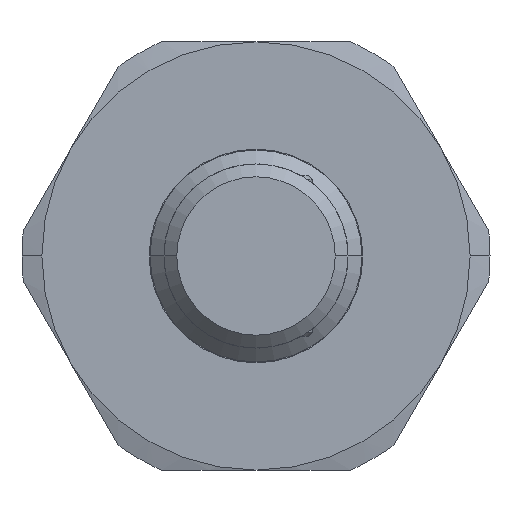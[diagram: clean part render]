
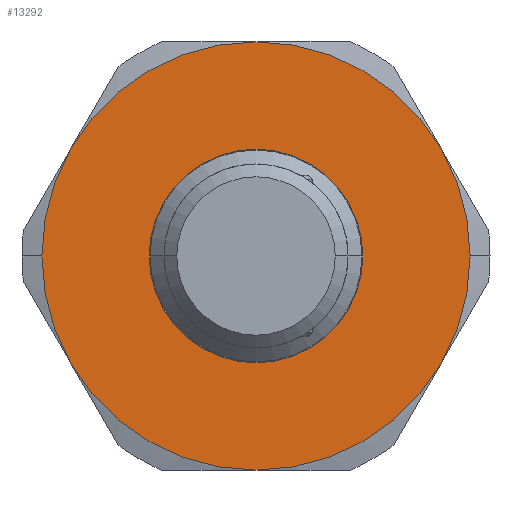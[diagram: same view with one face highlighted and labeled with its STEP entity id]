
A CAD part, left-side view. The second image highlights one B-rep face of the part: STEP entity #13292.
In plain terms, the highlighted planar face has unit normal (-1, 0, 0).
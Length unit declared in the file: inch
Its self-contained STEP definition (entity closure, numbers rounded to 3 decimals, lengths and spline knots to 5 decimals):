
#7814=CARTESIAN_POINT('',(-0.219,-0.5,0.));
#7815=VERTEX_POINT('',#7814);
#7822=CARTESIAN_POINT('',(-0.219,-0.43301,-0.25));
#7823=VERTEX_POINT('',#7822);
#7824=CARTESIAN_POINT('',(-0.219,0.0,0.0));
#7825=DIRECTION('',(-1.0,0.0,0.0));
#7826=DIRECTION('',(0.0,1.0,0.0));
#7827=AXIS2_PLACEMENT_3D('',#7824,#7825,#7826);
#7828=CIRCLE('',#7827,0.5);
#7829=EDGE_CURVE('',#7823,#7815,#7828,.T.);
#7861=CARTESIAN_POINT('',(-0.219,0.5,0.));
#7862=VERTEX_POINT('',#7861);
#7870=CARTESIAN_POINT('',(-0.219,0.43301,-0.25));
#7871=VERTEX_POINT('',#7870);
#7885=CARTESIAN_POINT('',(-0.219,0.0,0.0));
#7886=DIRECTION('',(-1.0,0.0,0.0));
#7887=DIRECTION('',(0.0,1.0,0.0));
#7888=AXIS2_PLACEMENT_3D('',#7885,#7886,#7887);
#7889=CIRCLE('',#7888,0.5);
#7890=EDGE_CURVE('',#7862,#7871,#7889,.T.);
#8304=CARTESIAN_POINT('',(-0.219,-0.2495,0.0));
#8305=VERTEX_POINT('',#8304);
#8314=CARTESIAN_POINT('',(-0.219,0.2495,0.));
#8315=VERTEX_POINT('',#8314);
#8316=CARTESIAN_POINT('',(-0.219,0.0,0.0));
#8317=DIRECTION('',(1.0,0.0,0.0));
#8318=DIRECTION('',(0.0,-1.0,0.0));
#8319=AXIS2_PLACEMENT_3D('',#8316,#8317,#8318);
#8320=CIRCLE('',#8319,0.2495);
#8321=EDGE_CURVE('',#8315,#8305,#8320,.T.);
#12953=CARTESIAN_POINT('',(-0.219,0.0,0.0));
#12954=DIRECTION('',(1.0,0.0,0.0));
#12955=DIRECTION('',(0.0,-1.0,0.0));
#12956=AXIS2_PLACEMENT_3D('',#12953,#12954,#12955);
#12957=CIRCLE('',#12956,0.2495);
#12958=EDGE_CURVE('',#8305,#8315,#12957,.T.);
#13229=CARTESIAN_POINT('',(-0.219,0.0,0.0));
#13230=DIRECTION('',(1.0,0.0,0.0));
#13231=DIRECTION('',(0.0,1.0,0.0));
#13232=AXIS2_PLACEMENT_3D('',#13229,#13230,#13231);
#13233=PLANE('',#13232);
#13234=CARTESIAN_POINT('',(-0.219,0.0,-0.5));
#13235=VERTEX_POINT('',#13234);
#13236=CARTESIAN_POINT('',(-0.219,0.0,0.0));
#13237=DIRECTION('',(-1.0,0.0,0.0));
#13238=DIRECTION('',(0.0,1.0,0.0));
#13239=AXIS2_PLACEMENT_3D('',#13236,#13237,#13238);
#13240=CIRCLE('',#13239,0.5);
#13241=EDGE_CURVE('',#7871,#13235,#13240,.T.);
#13242=ORIENTED_EDGE('',*,*,#13241,.T.);
#13243=CARTESIAN_POINT('',(-0.219,0.0,0.0));
#13244=DIRECTION('',(-1.0,0.0,0.0));
#13245=DIRECTION('',(0.0,1.0,0.0));
#13246=AXIS2_PLACEMENT_3D('',#13243,#13244,#13245);
#13247=CIRCLE('',#13246,0.5);
#13248=EDGE_CURVE('',#13235,#7823,#13247,.T.);
#13249=ORIENTED_EDGE('',*,*,#13248,.T.);
#13250=ORIENTED_EDGE('',*,*,#7829,.T.);
#13251=CARTESIAN_POINT('',(-0.219,-0.43301,0.25));
#13252=VERTEX_POINT('',#13251);
#13253=CARTESIAN_POINT('',(-0.219,0.0,0.0));
#13254=DIRECTION('',(-1.0,0.0,0.0));
#13255=DIRECTION('',(0.0,1.0,0.0));
#13256=AXIS2_PLACEMENT_3D('',#13253,#13254,#13255);
#13257=CIRCLE('',#13256,0.5);
#13258=EDGE_CURVE('',#7815,#13252,#13257,.T.);
#13259=ORIENTED_EDGE('',*,*,#13258,.T.);
#13260=CARTESIAN_POINT('',(-0.219,0.0,0.5));
#13261=VERTEX_POINT('',#13260);
#13262=CARTESIAN_POINT('',(-0.219,0.0,0.0));
#13263=DIRECTION('',(-1.0,0.0,0.0));
#13264=DIRECTION('',(0.0,1.0,0.0));
#13265=AXIS2_PLACEMENT_3D('',#13262,#13263,#13264);
#13266=CIRCLE('',#13265,0.5);
#13267=EDGE_CURVE('',#13252,#13261,#13266,.T.);
#13268=ORIENTED_EDGE('',*,*,#13267,.T.);
#13269=CARTESIAN_POINT('',(-0.219,0.43301,0.25));
#13270=VERTEX_POINT('',#13269);
#13271=CARTESIAN_POINT('',(-0.219,0.0,0.0));
#13272=DIRECTION('',(-1.0,0.0,0.0));
#13273=DIRECTION('',(0.0,1.0,0.0));
#13274=AXIS2_PLACEMENT_3D('',#13271,#13272,#13273);
#13275=CIRCLE('',#13274,0.5);
#13276=EDGE_CURVE('',#13261,#13270,#13275,.T.);
#13277=ORIENTED_EDGE('',*,*,#13276,.T.);
#13278=CARTESIAN_POINT('',(-0.219,0.0,0.0));
#13279=DIRECTION('',(-1.0,0.0,0.0));
#13280=DIRECTION('',(0.0,1.0,0.0));
#13281=AXIS2_PLACEMENT_3D('',#13278,#13279,#13280);
#13282=CIRCLE('',#13281,0.5);
#13283=EDGE_CURVE('',#13270,#7862,#13282,.T.);
#13284=ORIENTED_EDGE('',*,*,#13283,.T.);
#13285=ORIENTED_EDGE('',*,*,#7890,.T.);
#13286=EDGE_LOOP('',(#13242,#13249,#13250,#13259,#13268,#13277,#13284,#13285));
#13287=FACE_OUTER_BOUND('',#13286,.T.);
#13288=ORIENTED_EDGE('',*,*,#12958,.T.);
#13289=ORIENTED_EDGE('',*,*,#8321,.T.);
#13290=EDGE_LOOP('',(#13288,#13289));
#13291=FACE_BOUND('',#13290,.T.);
#13292=ADVANCED_FACE('',(#13287,#13291),#13233,.F.);
